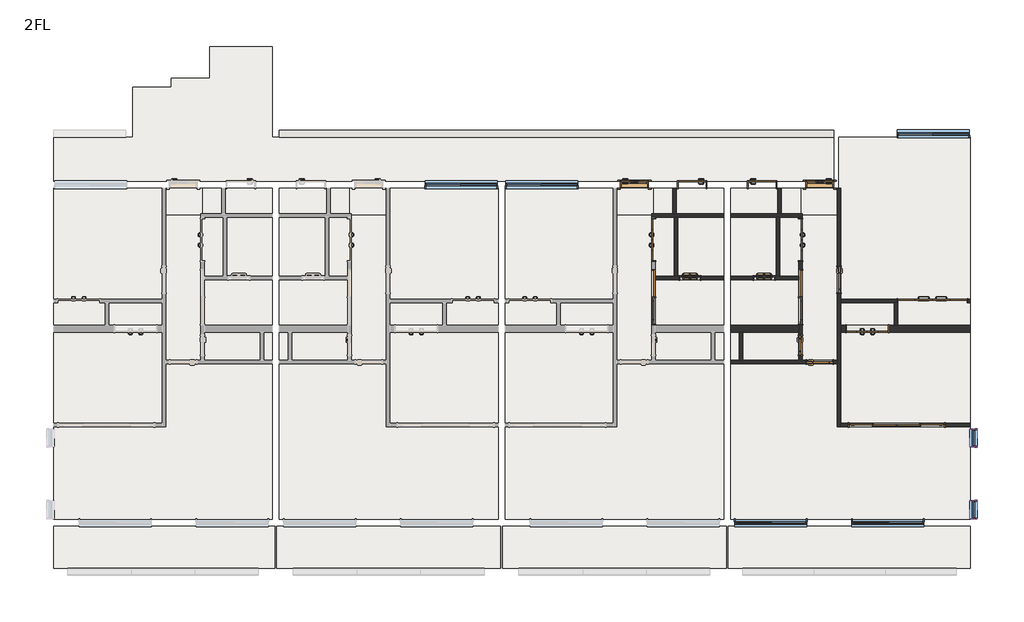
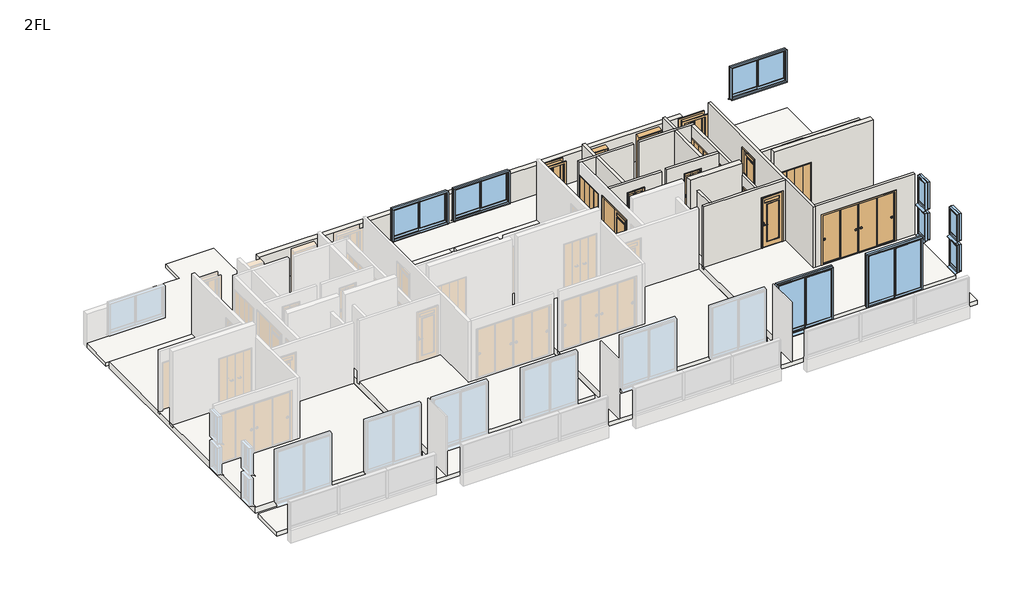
# One storey, part 3 of 3: 18 walls, 16 doors, 14 slabs, 9 windows.
"""IFC4 building model written with IfcOpenShell, lengths in millimetres."""

from ifc_helpers import new_model, si_unit, frame, origin, place, context, project, spatial, polyline, outline, extrude, faceted_brep, transform, mapped, element, save
from components import door_1200x2000_6a144d60, door_1200x2000_ebe1d490, door_1200x2000_99d19fb3, door_1600x2000_09a7ee27, door_1600x2000_1f5bdc43, door_2800x2000_04aa64cd, door_600x2000_6a266bef, door_600x2000_8ea70a65, door_600x2000_94bb9c3c, door_800x2000_a7d1584b, door_800x2000_13e9f519, door_800x2000_ccb03061, door_800x2000_010bfebf, w2000h2000_5dbb6d6a, w800h2000_1d97c4d4, w800h2000_0ab7d42c, window_2000x1200_fc91d1cf, window_2000x2000_f1ff98da, window_450x1000_e0a5e2da, window_450x1000_1cddc73c

model = new_model("IFC4")

# Units and contexts
model_context = context("Model", 3, world=origin())
ifc_project = project(units=[si_unit("LENGTHUNIT", "METRE", prefix="MILLI")], contexts=[model_context])

# Site, building, storey
site = spatial("IfcSite", under=ifc_project)
building = spatial("IfcBuilding", under=site)
storey = spatial("IfcBuildingStorey", under=building, Name="2FL", Elevation=4000.0)

# Doors
placement = place(None, origin())
door_1200x2000_shape = door_1200x2000_6a144d60(model_context)
element("IfcDoor", 1, ObjectType="木製折戸 : 1200x2000", at=placement, inside=storey, context=model_context, shape_type="MappedRepresentation", body=[
    mapped(door_1200x2000_shape, transform((6071.2812754, -7280.1171638, 4000.0), x_axis=(0.0, 1.0, 0.0), y_axis=(-1.0, 0.0, 0.0), z_axis=(0.0, 0.0, 1.0))),
])
door_1200x2000_2_shape = door_1200x2000_ebe1d490(model_context)
element("IfcDoor", 2, ObjectType="木製折戸 : 1200x2000", at=placement, inside=storey, context=model_context, shape_type="MappedRepresentation", body=[
    mapped(door_1200x2000_2_shape, transform((12183.7812754, -9820.1171638, 4100.0), x_axis=(1.0, 0.0, 0.0), y_axis=(0.0, 1.0, 0.0), z_axis=(0.0, 0.0, 1.0))),
])
door_1200x2000_3_shape = door_1200x2000_99d19fb3(model_context)
element("IfcDoor", 3, ObjectType="木製折戸 : 1200x2000", at=placement, inside=storey, context=model_context, shape_type="MappedRepresentation", body=[
    mapped(door_1200x2000_3_shape, transform((10271.2812754, -7280.1171638, 4000.0), x_axis=(0.0, 1.0, 0.0), y_axis=(-1.0, 0.0, 0.0), z_axis=(0.0, 0.0, 1.0))),
])
door_1600x2000_shape = door_1600x2000_09a7ee27(model_context)
element("IfcDoor", 4, ObjectType="片引戸CL2017 : 1600x2000", at=placement, inside=storey, context=model_context, shape_type="MappedRepresentation", body=[
    mapped(door_1600x2000_shape, transform((6071.2812754, -8920.1171638, 4100.0), x_axis=(0.0, -1.0, 0.0), y_axis=(1.0, 0.0, 0.0), z_axis=(0.0, 0.0, 1.0))),
])
door_1600x2000_2_shape = door_1600x2000_1f5bdc43(model_context)
element("IfcDoor", 5, ObjectType="片引戸CL2017 : 1600x2000", at=placement, inside=storey, context=model_context, shape_type="MappedRepresentation", body=[
    mapped(door_1600x2000_2_shape, transform((10271.2812754, -8920.1171638, 4100.0), x_axis=(0.0, -1.0, 0.0), y_axis=(1.0, 0.0, 0.0), z_axis=(0.0, 0.0, 1.0))),
])
door_2800x2000_shape = door_2800x2000_04aa64cd(model_context)
element("IfcDoor", 6, ObjectType="引違い 4 枚 2 溝_襖 : 2800x2000", at=placement, inside=storey, context=model_context, shape_type="MappedRepresentation", body=[
    mapped(door_2800x2000_shape, transform((13015.7457714, -12570.1171638, 4100.0), x_axis=(-1.0, 0.0, 0.0), y_axis=(0.0, -1.0, 0.0), z_axis=(0.0, 0.0, 1.0))),
])
door_600x2000_shape = door_600x2000_6a266bef(model_context)
element("IfcDoor", 7, ObjectType="浴室折戸 : 600x2000", at=placement, inside=storey, context=model_context, shape_type="MappedRepresentation", body=[
    mapped(door_600x2000_shape, transform((7111.2812754, -8370.1171638, 4100.0), x_axis=(1.0, 0.0, 0.0), y_axis=(0.0, 1.0, 0.0), z_axis=(0.0, 0.0, 1.0))),
])
door_600x2000_2_shape = door_600x2000_8ea70a65(model_context)
element("IfcDoor", 8, ObjectType="片開き戸CL2058 : 600x2000", at=placement, inside=storey, context=model_context, shape_type="MappedRepresentation", body=[
    mapped(door_600x2000_2_shape, transform((10271.2812754, -10295.1171638, 4100.0), x_axis=(0.0, -1.0, 0.0), y_axis=(1.0, 0.0, 0.0), z_axis=(0.0, 0.0, 1.0))),
])
door_600x2000_3_shape = door_600x2000_94bb9c3c(model_context)
element("IfcDoor", 9, ObjectType="浴室折戸 : 600x2000", at=placement, inside=storey, context=model_context, shape_type="MappedRepresentation", body=[
    mapped(door_600x2000_3_shape, transform((9231.2812754, -8370.1171638, 4100.0), x_axis=(-1.0, 0.0, 0.0), y_axis=(0.0, -1.0, 0.0), z_axis=(0.0, 0.0, 1.0))),
])
door_800x2000_shape = door_800x2000_a7d1584b(model_context)
element("IfcDoor", 10, ObjectType="片開き3 : 800x2000", at=placement, inside=storey, context=model_context, shape_type="MappedRepresentation", body=[
    mapped(door_800x2000_shape, transform((5521.2812754, -5700.1171638, 4000.0), x_axis=(1.0, 0.0, 0.0), y_axis=(0.0, 1.0, 0.0), z_axis=(0.0, 0.0, 1.0))),
])
door_800x2000_2_shape = door_800x2000_13e9f519(model_context)
element("IfcDoor", 11, ObjectType="片開き戸CL2058 : 800x2000", at=placement, inside=storey, context=model_context, shape_type="MappedRepresentation", body=[
    mapped(door_800x2000_2_shape, transform((10821.2812754, -10770.1171638, 4100.0), x_axis=(1.0, 0.0, 0.0), y_axis=(0.0, 1.0, 0.0), z_axis=(0.0, 0.0, 1.0))),
])
door_800x2000_3_shape = door_800x2000_ccb03061(model_context)
element("IfcDoor", 12, ObjectType="片開き戸CL2058 : 800x2000", at=placement, inside=storey, context=model_context, shape_type="MappedRepresentation", body=[
    mapped(door_800x2000_3_shape, transform((11371.2812754, -8420.1171638, 4100.0), x_axis=(0.0, -1.0, 0.0), y_axis=(1.0, 0.0, 0.0), z_axis=(0.0, 0.0, 1.0))),
])
door_800x2000_4_shape = door_800x2000_010bfebf(model_context)
element("IfcDoor", 13, ObjectType="片開き3 : 800x2000", at=placement, inside=storey, context=model_context, shape_type="MappedRepresentation", body=[
    mapped(door_800x2000_4_shape, transform((10821.2812754, -5700.1171638, 4000.0), x_axis=(-1.0, 0.0, 0.0), y_axis=(0.0, -1.0, 0.0), z_axis=(0.0, 0.0, 1.0))),
])
w2000h2000_shape = w2000h2000_5dbb6d6a(model_context)
element("IfcDoor", 14, ObjectType="木製折戸 : w2000h2000", at=placement, inside=storey, context=model_context, shape_type="MappedRepresentation", body=[
    mapped(w2000h2000_shape, transform((14046.2812754, -9020.1171638, 4000.0), x_axis=(-1.0, 0.0, 0.0), y_axis=(0.0, -1.0, 0.0), z_axis=(0.0, 0.0, 1.0))),
])
w800h2000_shape = w800h2000_1d97c4d4(model_context)
element("IfcDoor", 15, ObjectType="片開き : w800h2000", at=placement, inside=storey, context=model_context, shape_type="MappedRepresentation", body=[
    mapped(w800h2000_shape, transform((7171.2812754, -5700.1171638, 4000.0), x_axis=(-1.0, 0.0, 0.0), y_axis=(0.0, -1.0, 0.0), z_axis=(0.0, 0.0, 1.0))),
])
w800h2000_2_shape = w800h2000_0ab7d42c(model_context)
element("IfcDoor", 16, ObjectType="片開き : w800h2000", at=placement, inside=storey, context=model_context, shape_type="MappedRepresentation", body=[
    mapped(w800h2000_2_shape, transform((9171.2812754, -5700.1171638, 4000.0), x_axis=(1.0, 0.0, 0.0), y_axis=(0.0, 1.0, 0.0), z_axis=(0.0, 0.0, 1.0))),
])

# Slabs
element("IfcSlab", 17, ObjectType="RC150＋100", at=placement, inside=storey, context=model_context, shape_type="SweptSolid", body=[
    extrude(outline(polyline([(-4828.7187246, -15270.1171638), (-11078.7187246, -15270.1171638), (-11078.7187246, -5800.1171638), (-7928.7187246, -5800.1171638), (-7928.7187246, -6580.1171638), (-6828.7187246, -6580.1171638), (-6828.7187246, -5800.1171638), (-4828.7187246, -5800.1171638), (-4828.7187246, -6580.1171638), (-6188.7187246, -6580.1171638), (-6188.7187246, -8370.1171638), (-4828.7187246, -8370.1171638), (-4828.7187246, -15270.1171638)])), frame((0.0, 0.0, 3850.0), z_axis=(0.0, 0.0, 1.0), x_axis=(1.0, 0.0, 0.0)), (0.0, 0.0, 1.0), 250.0),
])
element("IfcSlab", 18, ObjectType="RC150＋100", at=placement, inside=storey, context=model_context, shape_type="SweptSolid", body=[
    extrude(outline(polyline([(-4628.7187246, -15270.1171638), (-4628.7187246, -8370.1171638), (-3268.7187246, -8370.1171638), (-3268.7187246, -6580.1171638), (-4628.7187246, -6580.1171638), (-4628.7187246, -5800.1171638), (-2628.7187246, -5800.1171638), (-2628.7187246, -6580.1171638), (-1528.7187246, -6580.1171638), (-1528.7187246, -5800.1171638), (1621.2812754, -5800.1171638), (1621.2812754, -15270.1171638), (-4628.7187246, -15270.1171638)])), frame((0.0, 0.0, 3850.0), z_axis=(0.0, 0.0, 1.0), x_axis=(1.0, 0.0, 0.0)), (0.0, 0.0, 1.0), 250.0),
])
element("IfcSlab", 19, ObjectType="RC150＋100", at=placement, inside=storey, context=model_context, shape_type="SweptSolid", body=[
    extrude(outline(polyline([(8071.2812754, -15270.1171638), (1821.2812754, -15270.1171638), (1821.2812754, -5800.1171638), (4971.2812754, -5800.1171638), (4971.2812754, -6580.1171638), (6071.2812754, -6580.1171638), (6071.2812754, -5800.1171638), (8071.2812754, -5800.1171638), (8071.2812754, -6580.1171638), (6711.2812754, -6580.1171638), (6711.2812754, -8370.1171638), (8071.2812754, -8370.1171638), (8071.2812754, -15270.1171638)])), frame((0.0, 0.0, 3850.0), z_axis=(0.0, 0.0, 1.0), x_axis=(1.0, 0.0, 0.0)), (0.0, 0.0, 1.0), 250.0),
])
element("IfcSlab", 20, ObjectType="RC150＋100", at=placement, inside=storey, context=model_context, shape_type="SweptSolid", body=[
    extrude(outline(polyline([(8271.2812754, -15270.1171638), (8271.2812754, -8370.1171638), (9631.2812754, -8370.1171638), (9631.2812754, -6580.1171638), (8271.2812754, -6580.1171638), (8271.2812754, -5800.1171638), (10271.2812754, -5800.1171638), (10271.2812754, -6580.1171638), (11371.2812754, -6580.1171638), (11371.2812754, -4350.1171638), (15121.2812754, -4350.1171638), (15121.2812754, -15270.1171638), (8271.2812754, -15270.1171638)])), frame((0.0, 0.0, 3850.0), z_axis=(0.0, 0.0, 1.0), x_axis=(1.0, 0.0, 0.0)), (0.0, 0.0, 1.0), 250.0),
])
element("IfcSlab", 21, ObjectType="RC150", at=placement, inside=storey, context=model_context, shape_type="SweptSolid", body=[
    extrude(outline(polyline([(-4828.7187246, -8370.1171638), (-6188.7187246, -8370.1171638), (-6188.7187246, -6580.1171638), (-4828.7187246, -6580.1171638), (-4828.7187246, -8370.1171638)])), frame((0.0, 0.0, 3850.0), z_axis=(0.0, 0.0, 1.0), x_axis=(1.0, 0.0, 0.0)), (0.0, 0.0, 1.0), 150.0),
])
element("IfcSlab", 22, ObjectType="RC150", at=placement, inside=storey, context=model_context, shape_type="SweptSolid", body=[
    extrude(outline(polyline([(-6828.7187246, -6580.1171638), (-7928.7187246, -6580.1171638), (-7928.7187246, -5800.1171638), (-6828.7187246, -5800.1171638), (-6828.7187246, -6580.1171638)])), frame((0.0, 0.0, 3800.0), z_axis=(0.0, 0.0, 1.0), x_axis=(1.0, 0.0, 0.0)), (0.0, 0.0, 1.0), 150.0),
])
element("IfcSlab", 23, ObjectType="RC150", at=placement, inside=storey, context=model_context, shape_type="SweptSolid", body=[
    extrude(outline(polyline([(-4628.7187246, -8370.1171638), (-4628.7187246, -6580.1171638), (-3268.7187246, -6580.1171638), (-3268.7187246, -8370.1171638), (-4628.7187246, -8370.1171638)])), frame((0.0, 0.0, 3850.0), z_axis=(0.0, 0.0, 1.0), x_axis=(1.0, 0.0, 0.0)), (0.0, 0.0, 1.0), 150.0),
])
element("IfcSlab", 24, ObjectType="RC150", at=placement, inside=storey, context=model_context, shape_type="SweptSolid", body=[
    extrude(outline(polyline([(-2628.7187246, -6580.1171638), (-2628.7187246, -5800.1171638), (-1528.7187246, -5800.1171638), (-1528.7187246, -6580.1171638), (-2628.7187246, -6580.1171638)])), frame((0.0, 0.0, 3800.0), z_axis=(0.0, 0.0, 1.0), x_axis=(1.0, 0.0, 0.0)), (0.0, 0.0, 1.0), 150.0),
])
element("IfcSlab", 25, ObjectType="RC150", at=placement, inside=storey, context=model_context, shape_type="SweptSolid", body=[
    extrude(outline(polyline([(8071.2812754, -8370.1171638), (6711.2812754, -8370.1171638), (6711.2812754, -6580.1171638), (8071.2812754, -6580.1171638), (8071.2812754, -8370.1171638)])), frame((0.0, 0.0, 3850.0), z_axis=(0.0, 0.0, 1.0), x_axis=(1.0, 0.0, 0.0)), (0.0, 0.0, 1.0), 150.0),
])
element("IfcSlab", 26, ObjectType="RC150", at=placement, inside=storey, context=model_context, shape_type="SweptSolid", body=[
    extrude(outline(polyline([(6071.2812754, -6580.1171638), (4971.2812754, -6580.1171638), (4971.2812754, -5800.1171638), (6071.2812754, -5800.1171638), (6071.2812754, -6580.1171638)])), frame((0.0, 0.0, 3800.0), z_axis=(0.0, 0.0, 1.0), x_axis=(1.0, 0.0, 0.0)), (0.0, 0.0, 1.0), 150.0),
])
element("IfcSlab", 27, ObjectType="RC150", at=placement, inside=storey, context=model_context, shape_type="SweptSolid", body=[
    extrude(outline(polyline([(8271.2812754, -8370.1171638), (8271.2812754, -6580.1171638), (9631.2812754, -6580.1171638), (9631.2812754, -8370.1171638), (8271.2812754, -8370.1171638)])), frame((0.0, 0.0, 3850.0), z_axis=(0.0, 0.0, 1.0), x_axis=(1.0, 0.0, 0.0)), (0.0, 0.0, 1.0), 150.0),
])
element("IfcSlab", 28, ObjectType="RC150", at=placement, inside=storey, context=model_context, shape_type="SweptSolid", body=[
    extrude(outline(polyline([(10271.2812754, -6580.1171638), (10271.2812754, -5800.1171638), (11371.2812754, -5800.1171638), (11371.2812754, -6580.1171638), (10271.2812754, -6580.1171638)])), frame((0.0, 0.0, 3800.0), z_axis=(0.0, 0.0, 1.0), x_axis=(1.0, 0.0, 0.0)), (0.0, 0.0, 1.0), 150.0),
])
element("IfcSlab", 29, ObjectType="RC150", at=placement, inside=storey, context=model_context, shape_type="SweptSolid", body=[
    extrude(outline(polyline([(-8828.7187246, -4350.1171638), (-8828.7187246, -2920.1171638), (-7728.7187246, -2920.1171638), (-7728.7187246, -2660.1171638), (-6628.7187246, -2660.1171638), (-6628.7187246, -1750.1171638), (-4828.7187246, -1750.1171638), (-4828.7187246, -4350.1171638), (11221.2812754, -4350.1171638), (11221.2812754, -5600.1171638), (-11078.7187246, -5600.1171638), (-11078.7187246, -4350.1171638), (-8828.7187246, -4350.1171638)])), frame((0.0, 0.0, 3800.0), z_axis=(0.0, 0.0, 1.0), x_axis=(1.0, 0.0, 0.0)), (0.0, 0.0, 1.0), 150.0),
])
element("IfcSlab", 30, ObjectType="RC150", at=placement, inside=storey, context=model_context, shape_type="SweptSolid", body=[
    extrude(outline(polyline([(15121.2812754, -15470.1171638), (15121.2812754, -16670.1171638), (-11078.7187246, -16670.1171638), (-11078.7187246, -15470.1171638), (15121.2812754, -15470.1171638)])), frame((0.0, 0.0, 3800.0), z_axis=(0.0, 0.0, 1.0), x_axis=(1.0, 0.0, 0.0)), (0.0, 0.0, 1.0), 150.0),
])

# Walls
element("IfcWall", 31, ObjectType="(R)RC200", at=placement, inside=storey, context=model_context, shape_type="Brep", body=[
    faceted_brep([(15121.2812754, -9720.1171638, 4000.0), (13046.2812754, -9720.1171638, 4000.0), (12946.2812754, -9720.1171638, 4000.0), (11421.2812754, -9720.1171638, 4000.0), (11421.2812754, -9720.1171638, 7000.0), (15121.2812754, -9720.1171638, 7000.0), (12803.7812754, -9720.1171638, 6120.0), (11563.7812754, -9720.1171638, 6120.0), (11563.7812754, -9720.1171638, 4100.0), (12803.7812754, -9720.1171638, 4100.0), (15121.2812754, -9920.1171638, 4000.0), (15121.2812754, -9920.1171638, 7000.0), (11421.2812754, -9920.1171638, 7000.0), (11421.2812754, -9920.1171638, 4000.0), (12803.7812754, -9920.1171638, 6120.0), (12803.7812754, -9920.1171638, 4100.0), (11563.7812754, -9920.1171638, 4100.0), (11563.7812754, -9920.1171638, 6120.0)], [[[0, 1, 2, 3, 4, 5], [6, 7, 8, 9]], [[10, 11, 12, 13], [14, 15, 16, 17]], [[3, 2, 1, 0, 10, 13]], [[5, 4, 12, 11]], [[4, 3, 13, 12]], [[15, 14, 6, 9]], [[16, 15, 9, 8]], [[17, 16, 8, 7]], [[14, 17, 7, 6]], [[0, 5, 11, 10]]]),
])
element("IfcWall", 32, ObjectType="(R)RC200", at=placement, inside=storey, context=model_context, shape_type="Brep", body=[
    faceted_brep([(10221.2812754, -9720.1171638, 4000.0), (8271.2812754, -9720.1171638, 4000.0), (8271.2812754, -9720.1171638, 7000.0), (10221.2812754, -9720.1171638, 7000.0), (10221.2812754, -9720.1171638, 6100.0), (10221.2812754, -9720.1171638, 4100.0), (10221.2812754, -9920.1171638, 4000.0), (10221.2812754, -9920.1171638, 7000.0), (8271.2812754, -9920.1171638, 7000.0), (8271.2812754, -9920.1171638, 4000.0), (8521.2812754, -9920.1171638, 4000.0), (8621.2812754, -9920.1171638, 4000.0)], [[[0, 1, 2, 3, 4, 5]], [[6, 7, 8, 9, 10, 11]], [[1, 0, 6, 11, 10, 9]], [[3, 2, 8, 7]], [[0, 5, 4, 3, 7, 6]], [[2, 1, 9, 8]]]),
])
element("IfcWall", 33, ObjectType="(R)RC200", at=placement, inside=storey, context=model_context, shape_type="Brep", body=[
    faceted_brep([(-4628.7187246, -4350.1171638, 5100.0), (-4628.7187246, -4350.1171638, 3800.0), (-1628.7187246, -4350.1171638, 3800.0), (11221.2812754, -4350.1171638, 3800.0), (11221.2812754, -4350.1171638, 5100.0), (-4628.7187246, -4150.1171638, 3800.0), (-4628.7187246, -4150.1171638, 5100.0), (11221.2812754, -4150.1171638, 5100.0), (11221.2812754, -4150.1171638, 3800.0), (-1628.7187246, -4150.1171638, 3800.0)], [[[0, 1, 2, 3, 4]], [[5, 6, 7, 8, 9]], [[3, 2, 1, 5, 9, 8]], [[0, 4, 7, 6]], [[4, 3, 8, 7]], [[0, 6, 5, 1]]]),
])
element("IfcWall", 34, ObjectType="(L1)LGS100", at=placement, inside=storey, context=model_context, shape_type="Brep", body=[
    faceted_brep([(6021.2812754, -6630.1171638, 4000.0), (6121.2812754, -6630.1171638, 4000.0), (6661.2812754, -6630.1171638, 4000.0), (6761.2812754, -6630.1171638, 4000.0), (8071.2812754, -6630.1171638, 4000.0), (8071.2812754, -6630.1171638, 6500.0), (6761.2812754, -6630.1171638, 6500.0), (6661.2812754, -6630.1171638, 6500.0), (6121.2812754, -6630.1171638, 6500.0), (6021.2812754, -6630.1171638, 6500.0), (6021.2812754, -6530.1171638, 4000.0), (6021.2812754, -6530.1171638, 6500.0), (6621.2812754, -6530.1171638, 6500.0), (6721.2812754, -6530.1171638, 6500.0), (8071.2812754, -6530.1171638, 6500.0), (8071.2812754, -6530.1171638, 4000.0), (6721.2812754, -6530.1171638, 4000.0), (6621.2812754, -6530.1171638, 4000.0)], [[[0, 1, 2, 3, 4, 5, 6, 7, 8, 9]], [[10, 11, 12, 13, 14, 15, 16, 17]], [[4, 3, 2, 1, 0, 10, 17, 16, 15]], [[9, 8, 7, 6, 5, 14, 13, 12, 11]], [[0, 9, 11, 10]], [[5, 4, 15, 14]]]),
])
element("IfcWall", 35, ObjectType="(L1)LGS100", at=placement, inside=storey, context=model_context, shape_type="SweptSolid", body=[
    extrude(outline(polyline([(6721.2812754, -5800.1171638), (6721.2812754, -6530.1171638), (6621.2812754, -6530.1171638), (6621.2812754, -5800.1171638), (6721.2812754, -5800.1171638)])), frame((0.0, 0.0, 4000.0), z_axis=(0.0, 0.0, 1.0), x_axis=(1.0, 0.0, 0.0)), (0.0, 0.0, 1.0), 2500.0),
])
element("IfcWall", 36, ObjectType="(L1)LGS100", at=placement, inside=storey, context=model_context, shape_type="SweptSolid", body=[
    extrude(outline(polyline([(6761.2812754, -6630.1171638), (6761.2812754, -8320.1171638), (6661.2812754, -8320.1171638), (6661.2812754, -6630.1171638), (6761.2812754, -6630.1171638)])), frame((0.0, 0.0, 4000.0), z_axis=(0.0, 0.0, 1.0), x_axis=(1.0, 0.0, 0.0)), (0.0, 0.0, 1.0), 2500.0),
])
element("IfcWall", 37, ObjectType="(L1)LGS100", at=placement, inside=storey, context=model_context, shape_type="Brep", body=[
    faceted_brep([(6121.2812754, -8420.1171638, 4000.0), (8071.2812754, -8420.1171638, 4000.0), (8071.2812754, -8420.1171638, 6500.0), (6121.2812754, -8420.1171638, 6500.0), (7431.2812754, -8420.1171638, 6120.0), (7431.2812754, -8420.1171638, 4100.0), (6791.2812754, -8420.1171638, 4100.0), (6791.2812754, -8420.1171638, 6120.0), (6121.2812754, -8320.1171638, 4000.0), (6121.2812754, -8320.1171638, 6500.0), (6661.2812754, -8320.1171638, 6500.0), (6761.2812754, -8320.1171638, 6500.0), (8071.2812754, -8320.1171638, 6500.0), (8071.2812754, -8320.1171638, 4000.0), (6761.2812754, -8320.1171638, 4000.0), (6661.2812754, -8320.1171638, 4000.0), (7431.2812754, -8320.1171638, 6120.0), (6791.2812754, -8320.1171638, 6120.0), (6791.2812754, -8320.1171638, 4100.0), (7431.2812754, -8320.1171638, 4100.0)], [[[0, 1, 2, 3], [4, 5, 6, 7]], [[8, 9, 10, 11, 12, 13, 14, 15], [16, 17, 18, 19]], [[1, 0, 8, 15, 14, 13]], [[3, 2, 12, 11, 10, 9]], [[5, 4, 16, 19]], [[6, 5, 19, 18]], [[7, 6, 18, 17]], [[4, 7, 17, 16]], [[0, 3, 9, 8]], [[2, 1, 13, 12]]]),
])
element("IfcWall", 38, ObjectType="(L1)LGS100", at=placement, inside=storey, context=model_context, shape_type="Brep", body=[
    faceted_brep([(11421.2812754, -12620.1171638, 4000.0), (11421.2812754, -12520.1171638, 4000.0), (11421.2812754, -9920.1171638, 4000.0), (11421.2812754, -9720.1171638, 4000.0), (11421.2812754, -9070.1171638, 4000.0), (11421.2812754, -8970.1171638, 4000.0), (11421.2812754, -5800.1171638, 4000.0), (11421.2812754, -5800.1171638, 6500.0), (11421.2812754, -8970.1171638, 6500.0), (11421.2812754, -9070.1171638, 6500.0), (11421.2812754, -12520.1171638, 6500.0), (11421.2812754, -12620.1171638, 6500.0), (11421.2812754, -8820.1171638, 4100.0), (11421.2812754, -8820.1171638, 6100.0), (11421.2812754, -8020.1171638, 6100.0), (11421.2812754, -8020.1171638, 4100.0), (11321.2812754, -12620.1171638, 4000.0), (11321.2812754, -12620.1171638, 6500.0), (11321.2812754, -10820.1171638, 6500.0), (11321.2812754, -10720.1171638, 6500.0), (11321.2812754, -5800.1171638, 6500.0), (11321.2812754, -5800.1171638, 4000.0), (11321.2812754, -10720.1171638, 4000.0), (11321.2812754, -10820.1171638, 4000.0), (11321.2812754, -8820.1171638, 4100.0), (11321.2812754, -8020.1171638, 4100.0), (11321.2812754, -8020.1171638, 6100.0), (11321.2812754, -8820.1171638, 6100.0)], [[[0, 1, 2, 3, 4, 5, 6, 7, 8, 9, 10, 11], [12, 13, 14, 15]], [[16, 17, 18, 19, 20, 21, 22, 23], [24, 25, 26, 27]], [[6, 5, 4, 3, 2, 1, 0, 16, 23, 22, 21]], [[11, 10, 9, 8, 7, 20, 19, 18, 17]], [[0, 11, 17, 16]], [[13, 12, 24, 27]], [[14, 13, 27, 26]], [[15, 14, 26, 25]], [[12, 15, 25, 24]], [[7, 6, 21, 20]]]),
])
element("IfcWall", 39, ObjectType="(L1)LGS100", at=placement, inside=storey, context=model_context, shape_type="Brep", body=[
    faceted_brep([(10321.2812754, -6630.1171638, 6500.0), (10321.2812754, -10720.1171638, 6500.0), (10321.2812754, -10720.1171638, 4000.0), (10321.2812754, -7900.1171638, 4000.0), (10321.2812754, -7900.1171638, 6020.0), (10321.2812754, -6660.1171638, 6020.0), (10321.2812754, -6660.1171638, 4000.0), (10321.2812754, -6630.1171638, 4000.0), (10321.2812754, -10595.1171638, 4100.0), (10321.2812754, -10595.1171638, 6100.0), (10321.2812754, -9995.1171638, 6100.0), (10321.2812754, -9995.1171638, 4100.0), (10321.2812754, -9720.1171638, 4100.0), (10321.2812754, -9720.1171638, 6100.0), (10321.2812754, -8120.1171638, 6100.0), (10321.2812754, -8120.1171638, 4100.0), (10221.2812754, -10720.1171638, 6500.0), (10221.2812754, -8420.1171638, 6500.0), (10221.2812754, -8320.1171638, 6500.0), (10221.2812754, -6630.1171638, 6500.0), (10221.2812754, -6630.1171638, 4000.0), (10221.2812754, -6660.1171638, 4000.0), (10221.2812754, -6660.1171638, 6020.0), (10221.2812754, -7900.1171638, 6020.0), (10221.2812754, -7900.1171638, 4000.0), (10221.2812754, -8320.1171638, 4000.0), (10221.2812754, -8420.1171638, 4000.0), (10221.2812754, -9720.1171638, 4000.0), (10221.2812754, -9920.1171638, 4000.0), (10221.2812754, -10720.1171638, 4000.0), (10221.2812754, -10595.1171638, 4100.0), (10221.2812754, -9995.1171638, 4100.0), (10221.2812754, -9995.1171638, 6100.0), (10221.2812754, -10595.1171638, 6100.0), (10221.2812754, -9720.1171638, 6100.0), (10221.2812754, -9720.1171638, 4100.0), (10221.2812754, -8120.1171638, 4100.0), (10221.2812754, -8120.1171638, 6100.0)], [[[0, 1, 2, 3, 4, 5, 6, 7], [8, 9, 10, 11], [12, 13, 14, 15]], [[16, 17, 18, 19, 20, 21, 22, 23, 24, 25, 26, 27, 28, 29], [30, 31, 32, 33], [34, 35, 36, 37]], [[2, 29, 28, 27, 26, 25, 24, 3]], [[20, 7, 6, 21]], [[1, 0, 19, 18, 17, 16]], [[2, 1, 16, 29]], [[0, 7, 20, 19]], [[9, 8, 30, 33]], [[10, 9, 33, 32]], [[11, 10, 32, 31]], [[8, 11, 31, 30]], [[12, 35, 34, 13]], [[13, 34, 37, 14]], [[14, 37, 36, 15]], [[35, 12, 15, 36]], [[6, 5, 22, 21]], [[4, 3, 24, 23]], [[5, 4, 23, 22]]]),
])
element("IfcWall", 40, ObjectType="(L1)LGS100", at=placement, inside=storey, context=model_context, shape_type="Brep", body=[
    faceted_brep([(10321.2812754, -6530.1171638, 4000.0), (9721.2812754, -6530.1171638, 4000.0), (9621.2812754, -6530.1171638, 4000.0), (8271.2812754, -6530.1171638, 4000.0), (8271.2812754, -6530.1171638, 6500.0), (9621.2812754, -6530.1171638, 6500.0), (9721.2812754, -6530.1171638, 6500.0), (10321.2812754, -6530.1171638, 6500.0), (10321.2812754, -6630.1171638, 4000.0), (10321.2812754, -6630.1171638, 6500.0), (10221.2812754, -6630.1171638, 6500.0), (9681.2812754, -6630.1171638, 6500.0), (9581.2812754, -6630.1171638, 6500.0), (8271.2812754, -6630.1171638, 6500.0), (8271.2812754, -6630.1171638, 4000.0), (9581.2812754, -6630.1171638, 4000.0), (9681.2812754, -6630.1171638, 4000.0), (10221.2812754, -6630.1171638, 4000.0)], [[[0, 1, 2, 3, 4, 5, 6, 7]], [[8, 9, 10, 11, 12, 13, 14, 15, 16, 17]], [[3, 2, 1, 0, 8, 17, 16, 15, 14]], [[7, 6, 5, 4, 13, 12, 11, 10, 9]], [[0, 7, 9, 8]], [[4, 3, 14, 13]]]),
])
element("IfcWall", 41, ObjectType="(L1)LGS100", at=placement, inside=storey, context=model_context, shape_type="SweptSolid", body=[
    extrude(outline(polyline([(9721.2812754, -5800.1171638), (9721.2812754, -6530.1171638), (9621.2812754, -6530.1171638), (9621.2812754, -5800.1171638), (9721.2812754, -5800.1171638)])), frame((0.0, 0.0, 4000.0), z_axis=(0.0, 0.0, 1.0), x_axis=(1.0, 0.0, 0.0)), (0.0, 0.0, 1.0), 2500.0),
])
element("IfcWall", 42, ObjectType="(L1)LGS100", at=placement, inside=storey, context=model_context, shape_type="SweptSolid", body=[
    extrude(outline(polyline([(9681.2812754, -6630.1171638), (9681.2812754, -8320.1171638), (9581.2812754, -8320.1171638), (9581.2812754, -6630.1171638), (9681.2812754, -6630.1171638)])), frame((0.0, 0.0, 4000.0), z_axis=(0.0, 0.0, 1.0), x_axis=(1.0, 0.0, 0.0)), (0.0, 0.0, 1.0), 2500.0),
])
element("IfcWall", 43, ObjectType="(L1)LGS100", at=placement, inside=storey, context=model_context, shape_type="Brep", body=[
    faceted_brep([(10221.2812754, -8320.1171638, 4000.0), (9681.2812754, -8320.1171638, 4000.0), (9581.2812754, -8320.1171638, 4000.0), (8271.2812754, -8320.1171638, 4000.0), (8271.2812754, -8320.1171638, 6500.0), (9581.2812754, -8320.1171638, 6500.0), (9681.2812754, -8320.1171638, 6500.0), (10221.2812754, -8320.1171638, 6500.0), (8911.2812754, -8320.1171638, 6120.0), (8911.2812754, -8320.1171638, 4100.0), (9551.2812754, -8320.1171638, 4100.0), (9551.2812754, -8320.1171638, 6120.0), (10221.2812754, -8420.1171638, 4000.0), (10221.2812754, -8420.1171638, 6500.0), (8271.2812754, -8420.1171638, 6500.0), (8271.2812754, -8420.1171638, 4000.0), (8911.2812754, -8420.1171638, 6120.0), (9551.2812754, -8420.1171638, 6120.0), (9551.2812754, -8420.1171638, 4100.0), (8911.2812754, -8420.1171638, 4100.0)], [[[0, 1, 2, 3, 4, 5, 6, 7], [8, 9, 10, 11]], [[12, 13, 14, 15], [16, 17, 18, 19]], [[3, 2, 1, 0, 12, 15]], [[7, 6, 5, 4, 14, 13]], [[0, 7, 13, 12]], [[9, 8, 16, 19]], [[10, 9, 19, 18]], [[11, 10, 18, 17]], [[8, 11, 17, 16]], [[4, 3, 15, 14]]]),
])
element("IfcWall", 44, ObjectType="(L1)LGS100", at=placement, inside=storey, context=model_context, shape_type="Brep", body=[
    faceted_brep([(11321.2812754, -10720.1171638, 4000.0), (10321.2812754, -10720.1171638, 4000.0), (10221.2812754, -10720.1171638, 4000.0), (8621.2812754, -10720.1171638, 4000.0), (8521.2812754, -10720.1171638, 4000.0), (8271.2812754, -10720.1171638, 4000.0), (8271.2812754, -10720.1171638, 6500.0), (8521.2812754, -10720.1171638, 6500.0), (8621.2812754, -10720.1171638, 6500.0), (10221.2812754, -10720.1171638, 6500.0), (10321.2812754, -10720.1171638, 6500.0), (11321.2812754, -10720.1171638, 6500.0), (11221.2812754, -10720.1171638, 4100.0), (11221.2812754, -10720.1171638, 6100.0), (10421.2812754, -10720.1171638, 6100.0), (10421.2812754, -10720.1171638, 4100.0), (11321.2812754, -10820.1171638, 4000.0), (11321.2812754, -10820.1171638, 6500.0), (8271.2812754, -10820.1171638, 6500.0), (8271.2812754, -10820.1171638, 4000.0), (11221.2812754, -10820.1171638, 4100.0), (10421.2812754, -10820.1171638, 4100.0), (10421.2812754, -10820.1171638, 6100.0), (11221.2812754, -10820.1171638, 6100.0)], [[[0, 1, 2, 3, 4, 5, 6, 7, 8, 9, 10, 11], [12, 13, 14, 15]], [[16, 17, 18, 19], [20, 21, 22, 23]], [[5, 4, 3, 2, 1, 0, 16, 19]], [[11, 10, 9, 8, 7, 6, 18, 17]], [[0, 11, 17, 16]], [[13, 12, 20, 23]], [[14, 13, 23, 22]], [[15, 14, 22, 21]], [[12, 15, 21, 20]], [[6, 5, 19, 18]]]),
])
element("IfcWall", 45, ObjectType="(L1)LGS100", at=placement, inside=storey, context=model_context, shape_type="SweptSolid", body=[
    extrude(outline(polyline([(8621.2812754, -9920.1171638), (8621.2812754, -10720.1171638), (8521.2812754, -10720.1171638), (8521.2812754, -9920.1171638), (8621.2812754, -9920.1171638)])), frame((0.0, 0.0, 4000.0), z_axis=(0.0, 0.0, 1.0), x_axis=(1.0, 0.0, 0.0)), (0.0, 0.0, 1.0), 2500.0),
])
element("IfcWall", 46, ObjectType="(L1)LGS100", at=placement, inside=storey, context=model_context, shape_type="Brep", body=[
    faceted_brep([(15121.2812754, -8970.1171638, 4000.0), (15066.2812754, -8970.1171638, 4000.0), (15066.2812754, -8970.1171638, 6020.0), (13026.2812754, -8970.1171638, 6020.0), (13026.2812754, -8970.1171638, 4000.0), (11421.2812754, -8970.1171638, 4000.0), (11421.2812754, -8970.1171638, 6500.0), (15121.2812754, -8970.1171638, 6500.0), (15066.2812754, -9070.1171638, 6020.0), (15066.2812754, -9070.1171638, 4000.0), (15121.2812754, -9070.1171638, 4000.0), (15121.2812754, -9070.1171638, 6500.0), (13046.2812754, -9070.1171638, 6500.0), (12946.2812754, -9070.1171638, 6500.0), (11421.2812754, -9070.1171638, 6500.0), (11421.2812754, -9070.1171638, 4000.0), (12946.2812754, -9070.1171638, 4000.0), (13026.2812754, -9070.1171638, 4000.0), (13026.2812754, -9070.1171638, 6020.0)], [[[0, 1, 2, 3, 4, 5, 6, 7]], [[8, 9, 10, 11, 12, 13, 14, 15, 16, 17, 18]], [[10, 9, 1, 0]], [[17, 16, 15, 5, 4]], [[7, 6, 14, 13, 12, 11]], [[6, 5, 15, 14]], [[4, 3, 18, 17]], [[2, 1, 9, 8]], [[3, 2, 8, 18]], [[0, 7, 11, 10]]]),
])
element("IfcWall", 47, ObjectType="(L1)LGS100", at=placement, inside=storey, context=model_context, shape_type="Brep", body=[
    faceted_brep([(13046.2812754, -9720.1171638, 4000.0), (13046.2812754, -9070.1171638, 4000.0), (13046.2812754, -9070.1171638, 6500.0), (13046.2812754, -9720.1171638, 6500.0), (12946.2812754, -9720.1171638, 4000.0), (12946.2812754, -9720.1171638, 6500.0), (12946.2812754, -9070.1171638, 6500.0), (12946.2812754, -9070.1171638, 4000.0), (13026.2812754, -9070.1171638, 4000.0)], [[[0, 1, 2, 3]], [[4, 5, 6, 7]], [[1, 0, 4, 7, 8]], [[3, 2, 6, 5]], [[0, 3, 5, 4]], [[2, 1, 8, 7, 6]]]),
])
element("IfcWall", 48, ObjectType="(L1)LGS100", at=placement, inside=storey, context=model_context, shape_type="SweptSolid", body=[
    extrude(outline(polyline([(4000.0, 15121.2812754), (6500.0, 15121.2812754), (6500.0, 11421.2812754), (4000.0, 11421.2812754), (4000.0, 15121.2812754)]), holes=[polyline([(6100.0, 11621.2812754), (6100.0, 14421.2812754), (4100.0, 14421.2812754), (4100.0, 11621.2812754), (6100.0, 11621.2812754)])]), frame((0.0, -12620.1171638, 0.0), z_axis=(0.0, 1.0, 0.0), x_axis=(0.0, 0.0, 1.0)), (0.0, 0.0, 1.0), 100.0),
])

# Windows
window_2000x1200_shape = window_2000x1200_fc91d1cf(model_context)
element("IfcWindow", 49, ObjectType="鋼製_一般枠_引違い-二枚 : 2000x1200", at=placement, inside=storey, context=model_context, shape_type="MappedRepresentation", body=[
    mapped(window_2000x1200_shape, transform((571.2812754, -5700.1171638, 4250.0), x_axis=(1.0, 0.0, 0.0), y_axis=(0.0, 1.0, 0.0), z_axis=(0.0, 0.0, 1.0))),
])
element("IfcWindow", 50, ObjectType="鋼製_一般枠_引違い-二枚 : 2000x1200", at=placement, inside=storey, context=model_context, shape_type="MappedRepresentation", body=[
    mapped(window_2000x1200_shape, transform((2871.2812754, -5700.1171638, 4250.0), x_axis=(1.0, 0.0, 0.0), y_axis=(0.0, 1.0, 0.0), z_axis=(0.0, 0.0, 1.0))),
])
element("IfcWindow", 51, ObjectType="鋼製_一般枠_引違い-二枚 : 2000x1200", at=placement, inside=storey, context=model_context, shape_type="MappedRepresentation", body=[
    mapped(window_2000x1200_shape, transform((14071.2812754, -4250.1171638, 4250.0), x_axis=(1.0, 0.0, 0.0), y_axis=(0.0, 1.0, 0.0), z_axis=(0.0, 0.0, 1.0))),
])
window_2000x2000_shape = window_2000x2000_f1ff98da(model_context)
element("IfcWindow", 52, ObjectType="鋼製_一般枠_引違い-二枚 : 2000x2000", at=placement, inside=storey, context=model_context, shape_type="MappedRepresentation", body=[
    mapped(window_2000x2000_shape, transform((12771.2812754, -15370.1171638, 3200.0), x_axis=(-1.0, 0.0, 0.0), y_axis=(0.0, -1.0, 0.0), z_axis=(0.0, 0.0, 1.0))),
])
element("IfcWindow", 53, ObjectType="鋼製_一般枠_引違い-二枚 : 2000x2000", at=placement, inside=storey, context=model_context, shape_type="MappedRepresentation", body=[
    mapped(window_2000x2000_shape, transform((9421.2812754, -15370.1171638, 3200.0), x_axis=(-1.0, 0.0, 0.0), y_axis=(0.0, -1.0, 0.0), z_axis=(0.0, 0.0, 1.0))),
])
window_450x1000_shape = window_450x1000_e0a5e2da(model_context)
element("IfcWindow", 54, ObjectType="鋼製_一般枠_嵌殺し : 450x1000", at=placement, inside=storey, context=model_context, shape_type="MappedRepresentation", body=[
    mapped(window_450x1000_shape, transform((15221.2812754, -14995.1171638, 4230.0), x_axis=(0.0, 1.0, 0.0), y_axis=(-1.0, 0.0, 0.0), z_axis=(0.0, 0.0, 1.0))),
])
element("IfcWindow", 55, ObjectType="鋼製_一般枠_嵌殺し : 450x1000", at=placement, inside=storey, context=model_context, shape_type="MappedRepresentation", body=[
    mapped(window_450x1000_shape, transform((15221.2812754, -12945.1171638, 4230.0), x_axis=(0.0, 1.0, 0.0), y_axis=(-1.0, 0.0, 0.0), z_axis=(0.0, 0.0, 1.0))),
])
window_450x1000_2_shape = window_450x1000_1cddc73c(model_context)
element("IfcWindow", 56, ObjectType="鋼製_一般枠_嵌殺し : 450x1000", at=placement, inside=storey, context=model_context, shape_type="MappedRepresentation", body=[
    mapped(window_450x1000_2_shape, transform((15221.2812754, -14995.1171638, 3010.0), x_axis=(0.0, -1.0, 0.0), y_axis=(1.0, 0.0, 0.0), z_axis=(0.0, 0.0, 1.0))),
])
element("IfcWindow", 57, ObjectType="鋼製_一般枠_嵌殺し : 450x1000", at=placement, inside=storey, context=model_context, shape_type="MappedRepresentation", body=[
    mapped(window_450x1000_2_shape, transform((15221.2812754, -12945.1171638, 3010.0), x_axis=(0.0, -1.0, 0.0), y_axis=(1.0, 0.0, 0.0), z_axis=(0.0, 0.0, 1.0))),
])

save(model, "model.ifc")
